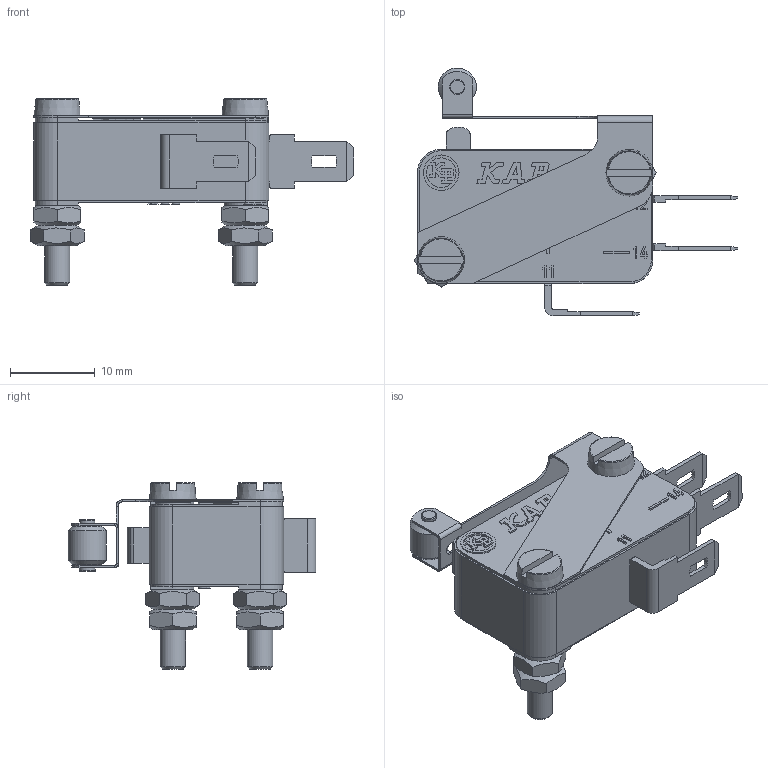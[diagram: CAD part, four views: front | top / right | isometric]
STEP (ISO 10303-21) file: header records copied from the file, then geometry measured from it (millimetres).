
FILE_DESCRIPTION(('Microrutor Miniatura Alavanca Flexivel c/ Roldana'),'2;1');
FILE_NAME('E:\WorkFolder\Bibl\3DWeb\kp_mv_mv$rca$_step.stp','2011-05-18T10:16:05',('DIE'),('KAP'),'Autodesk Inventor 2011','Autodesk Inventor 2011','Direitos reservados. Proibido reproducao, cedencia ou revelacao de conteudo a terceiros, salvo com autorizacao.');
FILE_SCHEMA(('AUTOMOTIVE_DESIGN { 1 0 10303 214 1 1 1 1 }'));
Length unit declared in the file: millimetre
Products named in the file (1): Part5
Bounding box: 38.18 x 29.27 x 22 mm (x, y, z)
Volume: 4952.3 mm3; surface area: 3911.9 mm2
Topology: 6 solids, 6 shells, 531 faces, 1388 edges, 907 vertices
Faces by surface type: plane 417, cylinder 86, cone 18, torus 9, bspline 1
Full cylindrical faces by diameter (mm): 1.5 x1, 1.587 x1, 1.7 x1, 1.8 x1, 1.9 x1, 2.729 x2, 3 x6, 3.1 x1, 3.2 x2, 4.2 x1, 4.5 x1
Entity records: 16591 total; most frequent: CARTESIAN_POINT 3119, ORIENTED_EDGE 2674, DIRECTION 2545, EDGE_CURVE 1337, VECTOR 1059, LINE 1059, VERTEX_POINT 897, AXIS2_PLACEMENT_3D 743
